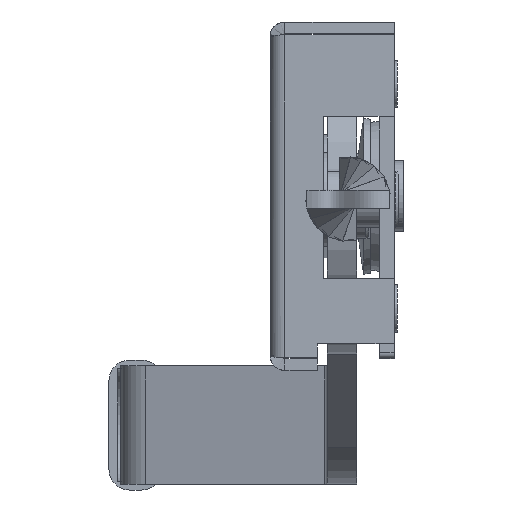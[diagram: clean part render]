
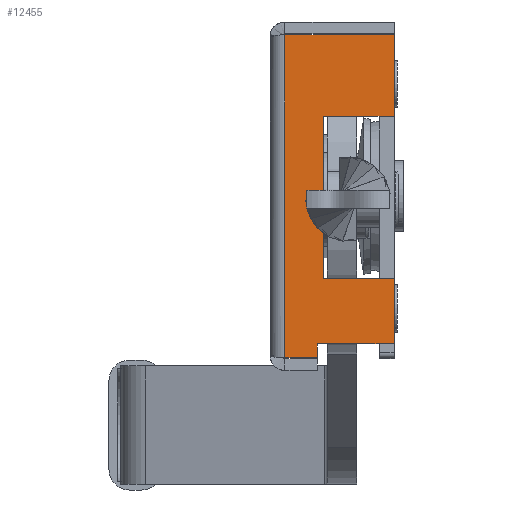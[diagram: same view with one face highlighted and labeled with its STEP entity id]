
A CAD part, left-side view. The second image highlights one B-rep face of the part: STEP entity #12455.
In plain terms, the highlighted planar face has unit normal (-1, 0, 0) as drawn and (1, 0, 0) by its records, which use the part's own axes.
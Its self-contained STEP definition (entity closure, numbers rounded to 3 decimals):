
#33 = ORIENTED_EDGE ( 'NONE', *, *, #13348, .T. ) ;
#113 = CARTESIAN_POINT ( 'NONE',  ( 82., 81., 27.323 ) ) ;
#163 = VECTOR ( 'NONE', #14346, 1000. ) ;
#239 = EDGE_CURVE ( 'NONE', #4909, #13077, #10568, .T. ) ;
#255 = ORIENTED_EDGE ( 'NONE', *, *, #5378, .F. ) ;
#528 = EDGE_CURVE ( 'NONE', #14790, #630, #14723, .T. ) ;
#630 = VERTEX_POINT ( 'NONE', #14753 ) ;
#656 = LINE ( 'NONE', #8113, #12167 ) ;
#1116 = DIRECTION ( 'NONE',  ( 0., 0., -1. ) ) ;
#1202 = CARTESIAN_POINT ( 'NONE',  ( 82., 93., -13.5 ) ) ;
#1589 = EDGE_CURVE ( 'NONE', #5936, #13077, #4893, .T. ) ;
#1663 = DIRECTION ( 'NONE',  ( 0., 0., 1. ) ) ;
#1858 = DIRECTION ( 'NONE',  ( 0., 0., 1. ) ) ;
#1870 = EDGE_CURVE ( 'NONE', #9031, #630, #7443, .T. ) ;
#2014 = VERTEX_POINT ( 'NONE', #2668 ) ;
#2337 = DIRECTION ( 'NONE',  ( 0., 0., 1. ) ) ;
#2653 = EDGE_CURVE ( 'NONE', #2014, #12042, #12502, .T. ) ;
#2668 = CARTESIAN_POINT ( 'NONE',  ( 82., 99.5, 27.323 ) ) ;
#2847 = EDGE_CURVE ( 'NONE', #8668, #2014, #6533, .T. ) ;
#2911 = DIRECTION ( 'NONE',  ( 0., 0., -1. ) ) ;
#2981 = CARTESIAN_POINT ( 'NONE',  ( 82., 99.5, -27.323 ) ) ;
#3015 = CARTESIAN_POINT ( 'NONE',  ( 82., 81., 827.5 ) ) ;
#3339 = ORIENTED_EDGE ( 'NONE', *, *, #528, .F. ) ;
#3400 = LINE ( 'NONE', #8769, #12234 ) ;
#3503 = CARTESIAN_POINT ( 'NONE',  ( 82., 93., 14. ) ) ;
#3517 = EDGE_LOOP ( 'NONE', ( #3616, #12421, #8907, #8825, #10444, #3339, #33, #8576, #5713, #255 ) ) ;
#3586 = DIRECTION ( 'NONE',  ( 0., 1., 0. ) ) ;
#3616 = ORIENTED_EDGE ( 'NONE', *, *, #1589, .T. ) ;
#3718 = LINE ( 'NONE', #9165, #6768 ) ;
#3899 = CARTESIAN_POINT ( 'NONE',  ( 82., 81., 14. ) ) ;
#3979 = EDGE_CURVE ( 'NONE', #12184, #9031, #3718, .T. ) ;
#4108 = DIRECTION ( 'NONE',  ( 0., -1., 0. ) ) ;
#4189 = DIRECTION ( 'NONE',  ( 0., 0., 1. ) ) ;
#4893 = LINE ( 'NONE', #11000, #14070 ) ;
#4909 = VERTEX_POINT ( 'NONE', #3899 ) ;
#5124 = CARTESIAN_POINT ( 'NONE',  ( 82., 81., -27.323 ) ) ;
#5338 = EDGE_CURVE ( 'NONE', #4909, #12184, #5934, .T. ) ;
#5378 = EDGE_CURVE ( 'NONE', #5936, #8668, #3400, .T. ) ;
#5572 = FACE_OUTER_BOUND ( 'NONE', #3517, .T. ) ;
#5713 = ORIENTED_EDGE ( 'NONE', *, *, #2847, .F. ) ;
#5844 = VECTOR ( 'NONE', #3586, 1000. ) ;
#5934 = LINE ( 'NONE', #7458, #163 ) ;
#5936 = VERTEX_POINT ( 'NONE', #13364 ) ;
#6533 = LINE ( 'NONE', #113, #5844 ) ;
#6768 = VECTOR ( 'NONE', #1116, 1000. ) ;
#7443 = LINE ( 'NONE', #12678, #14279 ) ;
#7458 = CARTESIAN_POINT ( 'NONE',  ( 82., 93., 14. ) ) ;
#7539 = VECTOR ( 'NONE', #2337, 1000. ) ;
#7576 = PLANE ( 'NONE',  #14356 ) ;
#8113 = CARTESIAN_POINT ( 'NONE',  ( 82., 81., -27.323 ) ) ;
#8576 = ORIENTED_EDGE ( 'NONE', *, *, #2653, .F. ) ;
#8621 = VECTOR ( 'NONE', #1663, 1000. ) ;
#8668 = VERTEX_POINT ( 'NONE', #10652 ) ;
#8769 = CARTESIAN_POINT ( 'NONE',  ( 82., 94., 25. ) ) ;
#8825 = ORIENTED_EDGE ( 'NONE', *, *, #3979, .T. ) ;
#8907 = ORIENTED_EDGE ( 'NONE', *, *, #5338, .T. ) ;
#9031 = VERTEX_POINT ( 'NONE', #1202 ) ;
#9165 = CARTESIAN_POINT ( 'NONE',  ( 82., 93., 14. ) ) ;
#9194 = DIRECTION ( 'NONE',  ( 0., -1., 0. ) ) ;
#9246 = CARTESIAN_POINT ( 'NONE',  ( 82., 81., 827.5 ) ) ;
#10444 = ORIENTED_EDGE ( 'NONE', *, *, #1870, .T. ) ;
#10568 = LINE ( 'NONE', #9246, #7539 ) ;
#10652 = CARTESIAN_POINT ( 'NONE',  ( 82., 94., 27.323 ) ) ;
#10979 = CARTESIAN_POINT ( 'NONE',  ( 82., 99.5, 827.5 ) ) ;
#11000 = CARTESIAN_POINT ( 'NONE',  ( 82., 93., 25. ) ) ;
#11083 = DIRECTION ( 'NONE',  ( -1., 0., 0. ) ) ;
#11570 = DIRECTION ( 'NONE',  ( 0., 1., 0. ) ) ;
#12035 = CARTESIAN_POINT ( 'NONE',  ( 82., 81., 827.5 ) ) ;
#12042 = VERTEX_POINT ( 'NONE', #2981 ) ;
#12167 = VECTOR ( 'NONE', #11570, 1000. ) ;
#12184 = VERTEX_POINT ( 'NONE', #3503 ) ;
#12234 = VECTOR ( 'NONE', #1858, 1000. ) ;
#12421 = ORIENTED_EDGE ( 'NONE', *, *, #239, .F. ) ;
#12455 = ADVANCED_FACE ( 'NONE', ( #5572 ), #7576, .F. ) ;
#12502 = LINE ( 'NONE', #10979, #12880 ) ;
#12678 = CARTESIAN_POINT ( 'NONE',  ( 82., 93., -13.5 ) ) ;
#12880 = VECTOR ( 'NONE', #2911, 1000. ) ;
#13077 = VERTEX_POINT ( 'NONE', #13273 ) ;
#13273 = CARTESIAN_POINT ( 'NONE',  ( 82., 81., 25. ) ) ;
#13348 = EDGE_CURVE ( 'NONE', #14790, #12042, #656, .T. ) ;
#13364 = CARTESIAN_POINT ( 'NONE',  ( 82., 94., 25. ) ) ;
#14070 = VECTOR ( 'NONE', #4108, 1000. ) ;
#14279 = VECTOR ( 'NONE', #9194, 1000. ) ;
#14346 = DIRECTION ( 'NONE',  ( 0., 1., 0. ) ) ;
#14356 = AXIS2_PLACEMENT_3D ( 'NONE', #3015, #11083, #4189 ) ;
#14723 = LINE ( 'NONE', #12035, #8621 ) ;
#14753 = CARTESIAN_POINT ( 'NONE',  ( 82., 81., -13.5 ) ) ;
#14790 = VERTEX_POINT ( 'NONE', #5124 ) ;
